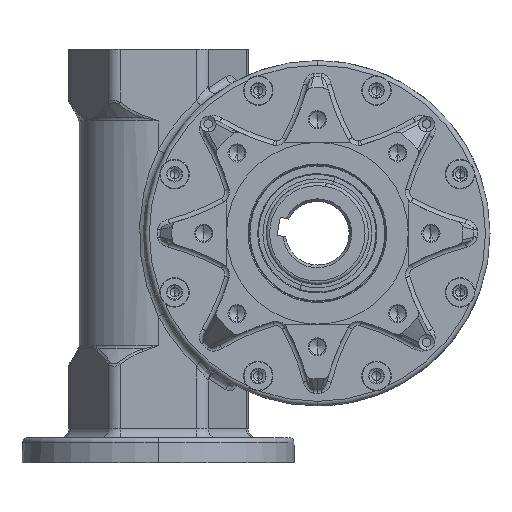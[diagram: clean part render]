
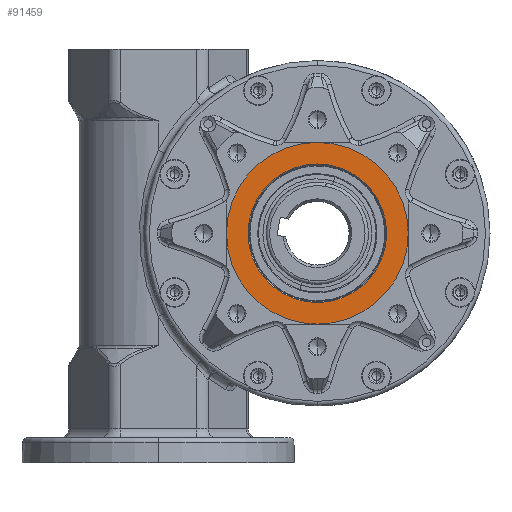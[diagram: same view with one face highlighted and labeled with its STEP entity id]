
A CAD part, left-side view. The second image highlights one B-rep face of the part: STEP entity #91459.
In plain terms, the highlighted planar face has unit normal (-1, 0, 0).
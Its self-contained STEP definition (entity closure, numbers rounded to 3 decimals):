
#91459 = ADVANCED_FACE ( 'NONE', ( #161297, #161295 ), #161281, .F. ) ;
#91462 = EDGE_LOOP ( 'NONE', ( #91895, #91901 ) ) ;
#91597 = EDGE_LOOP ( 'NONE', ( #91604, #91610 ) ) ;
#91604 = ORIENTED_EDGE ( 'NONE', *, *, #277788, .F. ) ;
#91610 = ORIENTED_EDGE ( 'NONE', *, *, #91718, .F. ) ;
#91718 = EDGE_CURVE ( 'NONE', #277790, #277789, #161855, .T. ) ;
#91895 = ORIENTED_EDGE ( 'NONE', *, *, #274243, .T. ) ;
#91901 = ORIENTED_EDGE ( 'NONE', *, *, #91909, .T. ) ;
#91909 = EDGE_CURVE ( 'NONE', #274239, #274245, #162385, .T. ) ;
#161270 = DIRECTION ( 'NONE',  ( 0., 0., -1. ) ) ;
#161273 = DIRECTION ( 'NONE',  ( 1., 0., 0. ) ) ;
#161276 = CARTESIAN_POINT ( 'NONE',  ( -60.5, -30., 0. ) ) ;
#161278 = AXIS2_PLACEMENT_3D ( 'NONE', #161276, #161273, #161270 ) ;
#161281 = PLANE ( 'NONE',  #161278 ) ;
#161295 = FACE_OUTER_BOUND ( 'NONE', #91597, .T. ) ;
#161297 = FACE_BOUND ( 'NONE', #91462, .T. ) ;
#161842 = DIRECTION ( 'NONE',  ( 0., 0., -1. ) ) ;
#161846 = DIRECTION ( 'NONE',  ( 1., 0., 0. ) ) ;
#161849 = CARTESIAN_POINT ( 'NONE',  ( -60.5, -70., 0. ) ) ;
#161852 = AXIS2_PLACEMENT_3D ( 'NONE', #161849, #161846, #161842 ) ;
#161855 = CIRCLE ( 'NONE', #161852, 40. ) ;
#162374 = DIRECTION ( 'NONE',  ( 0., 0., -1. ) ) ;
#162378 = DIRECTION ( 'NONE',  ( 1., 0., 0. ) ) ;
#162380 = CARTESIAN_POINT ( 'NONE',  ( -60.5, -70., 0. ) ) ;
#162382 = AXIS2_PLACEMENT_3D ( 'NONE', #162380, #162378, #162374 ) ;
#162385 = CIRCLE ( 'NONE', #162382, 30.5 ) ;
#206050 = CIRCLE ( 'NONE', #206139, 30.5 ) ;
#206052 = CARTESIAN_POINT ( 'NONE',  ( -60.5, -70., -30.5 ) ) ;
#206135 = CARTESIAN_POINT ( 'NONE',  ( -60.5, -70., 30.5 ) ) ;
#206136 = DIRECTION ( 'NONE',  ( 0., 0., -1. ) ) ;
#206137 = DIRECTION ( 'NONE',  ( 1., 0., 0. ) ) ;
#206138 = CARTESIAN_POINT ( 'NONE',  ( -60.5, -70., 0. ) ) ;
#206139 = AXIS2_PLACEMENT_3D ( 'NONE', #206138, #206137, #206136 ) ;
#226431 = CARTESIAN_POINT ( 'NONE',  ( -60.5, -70., 40. ) ) ;
#226432 = CARTESIAN_POINT ( 'NONE',  ( -60.5, -70., -40. ) ) ;
#226433 = DIRECTION ( 'NONE',  ( 0., 0., -1. ) ) ;
#226434 = DIRECTION ( 'NONE',  ( 1., 0., 0. ) ) ;
#226435 = AXIS2_PLACEMENT_3D ( 'NONE', #226441, #226434, #226433 ) ;
#226436 = CIRCLE ( 'NONE', #226435, 40. ) ;
#226441 = CARTESIAN_POINT ( 'NONE',  ( -60.5, -70., 0. ) ) ;
#274239 = VERTEX_POINT ( 'NONE', #206052 ) ;
#274243 = EDGE_CURVE ( 'NONE', #274245, #274239, #206050, .T. ) ;
#274245 = VERTEX_POINT ( 'NONE', #206135 ) ;
#277788 = EDGE_CURVE ( 'NONE', #277789, #277790, #226436, .T. ) ;
#277789 = VERTEX_POINT ( 'NONE', #226432 ) ;
#277790 = VERTEX_POINT ( 'NONE', #226431 ) ;
